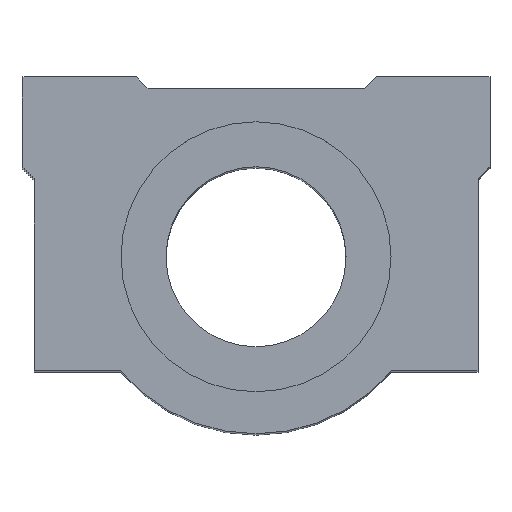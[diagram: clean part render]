
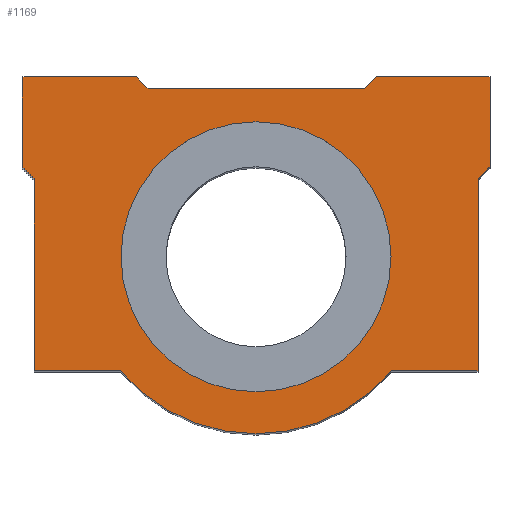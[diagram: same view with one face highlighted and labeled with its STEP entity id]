
A CAD part, top view. The second image highlights one B-rep face of the part: STEP entity #1169.
In plain terms, the highlighted planar face has unit normal (0, 0, 1).
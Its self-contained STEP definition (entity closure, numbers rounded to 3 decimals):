
#91=CARTESIAN_POINT('',(-23.209,4.198,138.0));
#92=VERTEX_POINT('',#91);
#101=CARTESIAN_POINT('',(21.791,4.198,138.0));
#102=VERTEX_POINT('',#101);
#103=CARTESIAN_POINT('',(-0.709,4.198,138.));
#104=DIRECTION('',(0.0,0.0,-1.0));
#105=DIRECTION('',(-1.0,0.0,0.0));
#106=AXIS2_PLACEMENT_3D('',#103,#104,#105);
#107=CIRCLE('',#106,22.5);
#108=EDGE_CURVE('',#102,#92,#107,.T.);
#640=CARTESIAN_POINT('',(-0.709,4.198,138.));
#641=DIRECTION('',(0.0,0.0,-1.0));
#642=DIRECTION('',(-1.0,0.0,0.0));
#643=AXIS2_PLACEMENT_3D('',#640,#641,#642);
#644=CIRCLE('',#643,22.5);
#645=EDGE_CURVE('',#92,#102,#644,.T.);
#780=CARTESIAN_POINT('',(38.291,19.198,138.));
#781=VERTEX_POINT('',#780);
#782=CARTESIAN_POINT('',(36.291,17.198,138.));
#783=VERTEX_POINT('',#782);
#784=CARTESIAN_POINT('',(38.291,19.198,138.));
#785=DIRECTION('',(-0.707,-0.707,0.0));
#786=VECTOR('',#785,2.828);
#787=LINE('',#784,#786);
#788=EDGE_CURVE('',#781,#783,#787,.T.);
#811=CARTESIAN_POINT('',(36.291,-14.802,138.));
#812=VERTEX_POINT('',#811);
#813=CARTESIAN_POINT('',(36.291,17.198,138.));
#814=DIRECTION('',(0.0,-1.0,0.0));
#815=VECTOR('',#814,32.);
#816=LINE('',#813,#815);
#817=EDGE_CURVE('',#783,#812,#816,.T.);
#835=CARTESIAN_POINT('',(21.858,-14.802,138.));
#836=VERTEX_POINT('',#835);
#837=CARTESIAN_POINT('',(36.291,-14.802,138.));
#838=DIRECTION('',(-1.0,0.0,0.0));
#839=VECTOR('',#838,14.433);
#840=LINE('',#837,#839);
#841=EDGE_CURVE('',#812,#836,#840,.T.);
#867=CARTESIAN_POINT('',(-23.275,-14.802,138.));
#868=VERTEX_POINT('',#867);
#869=CARTESIAN_POINT('',(-0.709,4.198,138.0));
#870=DIRECTION('',(0.0,0.0,-1.0));
#871=DIRECTION('',(0.765,0.644,0.0));
#872=AXIS2_PLACEMENT_3D('',#869,#870,#871);
#873=CIRCLE('',#872,29.5);
#874=EDGE_CURVE('',#836,#868,#873,.T.);
#892=CARTESIAN_POINT('',(-37.709,-14.802,138.));
#893=VERTEX_POINT('',#892);
#894=CARTESIAN_POINT('',(-23.275,-14.802,138.));
#895=DIRECTION('',(-1.0,0.0,0.0));
#896=VECTOR('',#895,14.433);
#897=LINE('',#894,#896);
#898=EDGE_CURVE('',#868,#893,#897,.T.);
#924=CARTESIAN_POINT('',(-37.709,17.198,138.));
#925=VERTEX_POINT('',#924);
#926=CARTESIAN_POINT('',(-37.709,-14.802,138.));
#927=DIRECTION('',(0.0,1.0,0.0));
#928=VECTOR('',#927,32.);
#929=LINE('',#926,#928);
#930=EDGE_CURVE('',#893,#925,#929,.T.);
#948=CARTESIAN_POINT('',(-39.709,19.198,138.));
#949=VERTEX_POINT('',#948);
#950=CARTESIAN_POINT('',(-37.709,17.198,138.));
#951=DIRECTION('',(-0.707,0.707,0.0));
#952=VECTOR('',#951,2.828);
#953=LINE('',#950,#952);
#954=EDGE_CURVE('',#925,#949,#953,.T.);
#972=CARTESIAN_POINT('',(-39.709,34.198,138.));
#973=VERTEX_POINT('',#972);
#974=CARTESIAN_POINT('',(-39.709,19.198,138.));
#975=DIRECTION('',(0.0,1.0,0.0));
#976=VECTOR('',#975,15.0);
#977=LINE('',#974,#976);
#978=EDGE_CURVE('',#949,#973,#977,.T.);
#996=CARTESIAN_POINT('',(-20.709,34.198,138.));
#997=VERTEX_POINT('',#996);
#998=CARTESIAN_POINT('',(-39.709,34.198,138.));
#999=DIRECTION('',(1.0,0.0,0.0));
#1000=VECTOR('',#999,19.);
#1001=LINE('',#998,#1000);
#1002=EDGE_CURVE('',#973,#997,#1001,.T.);
#1028=CARTESIAN_POINT('',(-18.709,32.198,138.));
#1029=VERTEX_POINT('',#1028);
#1030=CARTESIAN_POINT('',(-20.709,34.198,138.));
#1031=DIRECTION('',(0.707,-0.707,0.0));
#1032=VECTOR('',#1031,2.828);
#1033=LINE('',#1030,#1032);
#1034=EDGE_CURVE('',#997,#1029,#1033,.T.);
#1052=CARTESIAN_POINT('',(17.291,32.198,138.));
#1053=VERTEX_POINT('',#1052);
#1054=CARTESIAN_POINT('',(-18.709,32.198,138.));
#1055=DIRECTION('',(1.0,0.0,0.0));
#1056=VECTOR('',#1055,36.0);
#1057=LINE('',#1054,#1056);
#1058=EDGE_CURVE('',#1029,#1053,#1057,.T.);
#1076=CARTESIAN_POINT('',(19.291,34.198,138.));
#1077=VERTEX_POINT('',#1076);
#1078=CARTESIAN_POINT('',(17.291,32.198,138.));
#1079=DIRECTION('',(0.707,0.707,0.0));
#1080=VECTOR('',#1079,2.828);
#1081=LINE('',#1078,#1080);
#1082=EDGE_CURVE('',#1053,#1077,#1081,.T.);
#1100=CARTESIAN_POINT('',(38.291,34.198,138.));
#1101=VERTEX_POINT('',#1100);
#1102=CARTESIAN_POINT('',(19.291,34.198,138.));
#1103=DIRECTION('',(1.0,0.0,0.0));
#1104=VECTOR('',#1103,19.);
#1105=LINE('',#1102,#1104);
#1106=EDGE_CURVE('',#1077,#1101,#1105,.T.);
#1132=CARTESIAN_POINT('',(38.291,34.198,138.));
#1133=DIRECTION('',(0.0,-1.0,0.0));
#1134=VECTOR('',#1133,15.0);
#1135=LINE('',#1132,#1134);
#1136=EDGE_CURVE('',#1101,#781,#1135,.T.);
#1144=CARTESIAN_POINT('',(-0.709,8.165,138.));
#1145=DIRECTION('',(0.0,0.0,1.0));
#1146=DIRECTION('',(1.0,0.0,0.0));
#1147=AXIS2_PLACEMENT_3D('',#1144,#1145,#1146);
#1148=PLANE('',#1147);
#1149=ORIENTED_EDGE('',*,*,#788,.F.);
#1150=ORIENTED_EDGE('',*,*,#1136,.F.);
#1151=ORIENTED_EDGE('',*,*,#1106,.F.);
#1152=ORIENTED_EDGE('',*,*,#1082,.F.);
#1153=ORIENTED_EDGE('',*,*,#1058,.F.);
#1154=ORIENTED_EDGE('',*,*,#1034,.F.);
#1155=ORIENTED_EDGE('',*,*,#1002,.F.);
#1156=ORIENTED_EDGE('',*,*,#978,.F.);
#1157=ORIENTED_EDGE('',*,*,#954,.F.);
#1158=ORIENTED_EDGE('',*,*,#930,.F.);
#1159=ORIENTED_EDGE('',*,*,#898,.F.);
#1160=ORIENTED_EDGE('',*,*,#874,.F.);
#1161=ORIENTED_EDGE('',*,*,#841,.F.);
#1162=ORIENTED_EDGE('',*,*,#817,.F.);
#1163=EDGE_LOOP('',(#1149,#1150,#1151,#1152,#1153,#1154,#1155,#1156,#1157,#1158,#1159,#1160,#1161,#1162));
#1164=FACE_OUTER_BOUND('',#1163,.T.);
#1165=ORIENTED_EDGE('',*,*,#108,.T.);
#1166=ORIENTED_EDGE('',*,*,#645,.T.);
#1167=EDGE_LOOP('',(#1165,#1166));
#1168=FACE_BOUND('',#1167,.T.);
#1169=ADVANCED_FACE('',(#1164,#1168),#1148,.T.);
